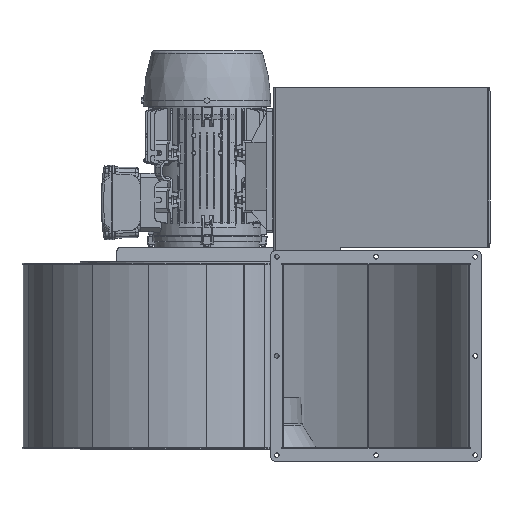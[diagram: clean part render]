
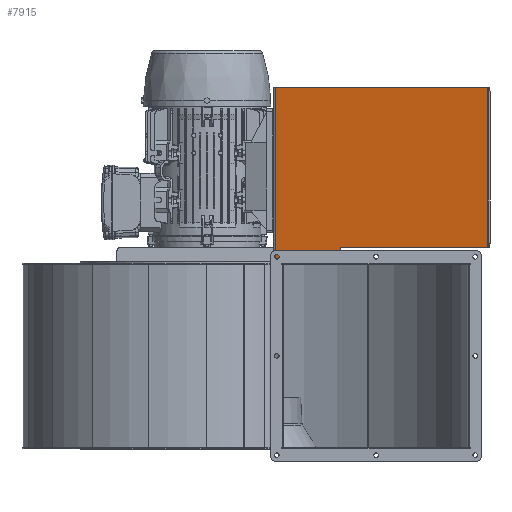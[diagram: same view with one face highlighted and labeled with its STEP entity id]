
A CAD part, left-side view. The second image highlights one B-rep face of the part: STEP entity #7915.
In plain terms, the highlighted planar face has unit normal (-0.972, 0.234, 0) as drawn and (0.972, 0.234, 0) by its records, which use the part's own axes.
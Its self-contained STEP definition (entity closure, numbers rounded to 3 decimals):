
#7135=CARTESIAN_POINT('',(-1077.243,760.118,-35.0));
#7136=VERTEX_POINT('',#7135);
#7144=CARTESIAN_POINT('',(-1162.399,1114.585,-35.0));
#7145=VERTEX_POINT('',#7144);
#7146=CARTESIAN_POINT('',(-1077.243,760.118,-35.0));
#7147=DIRECTION('',(-0.234,0.972,0.0));
#7148=VECTOR('',#7147,364.552);
#7149=LINE('',#7146,#7148);
#7150=EDGE_CURVE('',#7136,#7145,#7149,.T.);
#7184=CARTESIAN_POINT('',(-1164.801,1124.585,0.0));
#7185=VERTEX_POINT('',#7184);
#7186=CARTESIAN_POINT('',(-1162.399,1114.585,-10.0));
#7187=VERTEX_POINT('',#7186);
#7188=CARTESIAN_POINT('',(-1164.801,1124.585,-10.0));
#7189=DIRECTION('',(0.972,0.234,0.0));
#7190=DIRECTION('',(0.234,-0.972,0.));
#7191=AXIS2_PLACEMENT_3D('',#7188,#7189,#7190);
#7192=ELLIPSE('',#7191,10.285,10.);
#7193=EDGE_CURVE('',#7185,#7187,#7192,.T.);
#7279=CARTESIAN_POINT('',(-1162.399,1114.585,-35.0));
#7280=DIRECTION('',(0.0,0.0,1.0));
#7281=VECTOR('',#7280,25.0);
#7282=LINE('',#7279,#7281);
#7283=EDGE_CURVE('',#7145,#7187,#7282,.T.);
#7395=CARTESIAN_POINT('',(-1199.731,1269.987,0.0));
#7396=VERTEX_POINT('',#7395);
#7397=CARTESIAN_POINT('',(-1199.731,1269.987,0.0));
#7398=DIRECTION('',(0.234,-0.972,0.0));
#7399=VECTOR('',#7398,149.538);
#7400=LINE('',#7397,#7399);
#7401=EDGE_CURVE('',#7396,#7185,#7400,.T.);
#7869=CARTESIAN_POINT('',(-1199.731,1269.987,-420.0));
#7870=VERTEX_POINT('',#7869);
#7880=CARTESIAN_POINT('',(-1199.731,1269.987,0.0));
#7881=DIRECTION('',(0.0,0.0,-1.0));
#7882=VECTOR('',#7881,420.0);
#7883=LINE('',#7880,#7882);
#7884=EDGE_CURVE('',#7396,#7870,#7883,.T.);
#7889=CARTESIAN_POINT('',(-1199.731,1269.987,0.0));
#7890=DIRECTION('',(-0.972,-0.234,0.0));
#7891=DIRECTION('',(0.0,0.0,1.0));
#7892=AXIS2_PLACEMENT_3D('',#7889,#7890,#7891);
#7893=PLANE('',#7892);
#7894=ORIENTED_EDGE('',*,*,#7193,.T.);
#7895=ORIENTED_EDGE('',*,*,#7283,.F.);
#7896=ORIENTED_EDGE('',*,*,#7150,.F.);
#7897=CARTESIAN_POINT('',(-1077.243,760.118,-420.0));
#7898=VERTEX_POINT('',#7897);
#7899=CARTESIAN_POINT('',(-1077.243,760.118,-35.0));
#7900=DIRECTION('',(0.0,0.0,-1.0));
#7901=VECTOR('',#7900,385.0);
#7902=LINE('',#7899,#7901);
#7903=EDGE_CURVE('',#7136,#7898,#7902,.T.);
#7904=ORIENTED_EDGE('',*,*,#7903,.T.);
#7905=CARTESIAN_POINT('',(-1199.731,1269.987,-420.0));
#7906=DIRECTION('',(0.234,-0.972,0.0));
#7907=VECTOR('',#7906,524.375);
#7908=LINE('',#7905,#7907);
#7909=EDGE_CURVE('',#7870,#7898,#7908,.T.);
#7910=ORIENTED_EDGE('',*,*,#7909,.F.);
#7911=ORIENTED_EDGE('',*,*,#7884,.F.);
#7912=ORIENTED_EDGE('',*,*,#7401,.T.);
#7913=EDGE_LOOP('',(#7894,#7895,#7896,#7904,#7910,#7911,#7912));
#7914=FACE_OUTER_BOUND('',#7913,.T.);
#7915=ADVANCED_FACE('',(#7914),#7893,.F.);
